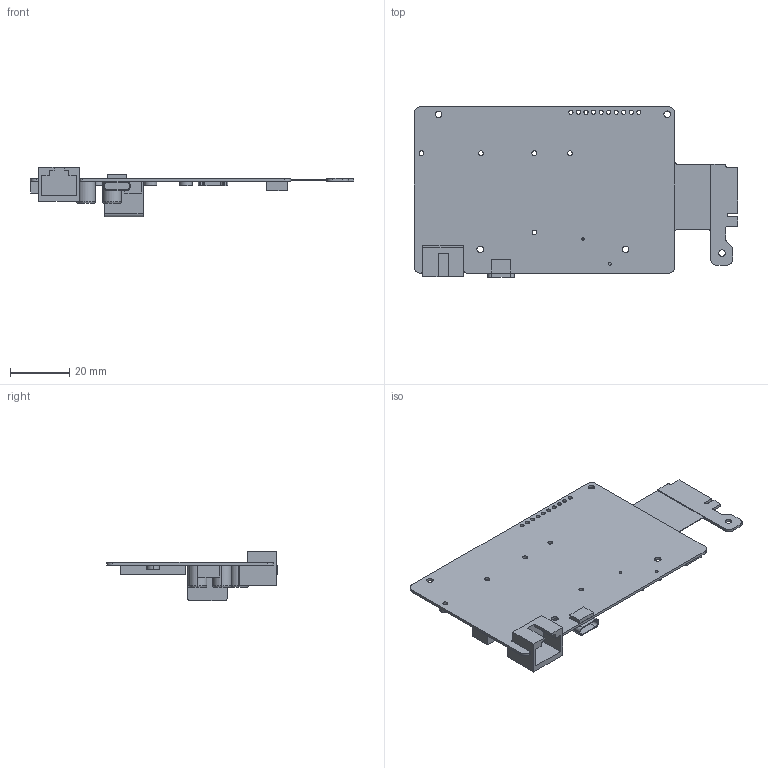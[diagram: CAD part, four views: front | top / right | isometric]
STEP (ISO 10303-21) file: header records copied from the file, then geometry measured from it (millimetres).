
FILE_DESCRIPTION (( 'STEP AP214' ), '1' );
FILE_NAME ('M2X Extension Board (v11).STEP', '2019-09-21T05:46:12', ( '' ), ( '' ), 'SwSTEP 2.0', 'SolidWorks 2018', '' );
FILE_SCHEMA (( 'AUTOMOTIVE_DESIGN' ));
Length unit declared in the file: millimetre
Products named in the file (1): M2X Extension Board (v11)
Bounding box: 108.95 x 57.33 x 16.7 mm (x, y, z)
Volume: 10326.6 mm3; surface area: 16352.9 mm2
Topology: 18 solids, 18 shells, 255 faces, 639 edges, 424 vertices
Faces by surface type: plane 131, cylinder 118, torus 6
Entity records: 7988 total; most frequent: DIRECTION 1399, CARTESIAN_POINT 1319, ORIENTED_EDGE 1278, EDGE_CURVE 639, AXIS2_PLACEMENT_3D 504, VERTEX_POINT 424, LINE 391, VECTOR 391
